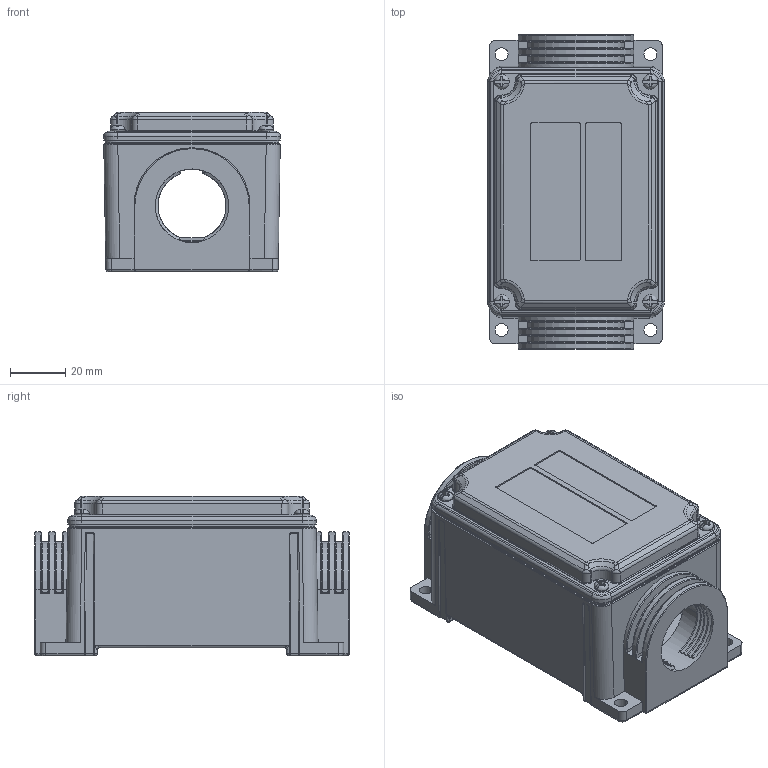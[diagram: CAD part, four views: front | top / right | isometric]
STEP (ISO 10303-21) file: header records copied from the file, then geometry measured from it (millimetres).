
FILE_DESCRIPTION(('Creo Elements/Direct Modeling STEP Export'),'2;1');
FILE_NAME('H07-0012-CL921_JB-WB2209.stp','2012-02-15T14:20:51',(''),(''),'Creo Elements/Direct Modeling STEP processor for AP214 (Solid Model)','Creo Elements/Direct Modeling 18.0B 02-Dec-2011 (C) Parametric Technology GmbH','');
FILE_SCHEMA(('AUTOMOTIVE_DESIGN { 1 0 10303 214 1 1 1 1 }'));
Products named in the file (5): JB-WB2209本体; JB-WB2209フタ; フタねじ.1; フタ部; JB-WB2209
Assembly tree (7 placements, depth 3):
  JB-WB2209
    フタ部
      フタねじ.1  x4
      JB-WB2209フタ
    JB-WB2209本体
Bounding box: 64 x 114 x 58 mm (x, y, z)
Volume: 91632.6 mm3; surface area: 72909.3 mm2
Topology: 6 solids, 6 shells, 1797 faces, 4575 edges, 2776 vertices
Faces by surface type: cylinder 765, plane 514, bspline 254, torus 162, cone 66, extrusion 20, sphere 16
Entity records: 92789 total; most frequent: CARTESIAN_POINT 56911, ORIENTED_EDGE 8094, DIRECTION 6476, EDGE_CURVE 4047, VERTEX_POINT 2452, AXIS2_PLACEMENT_3D 2402, EDGE_LOOP 1695, VECTOR 1672
